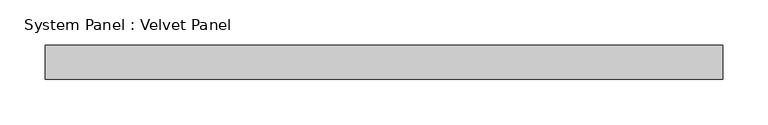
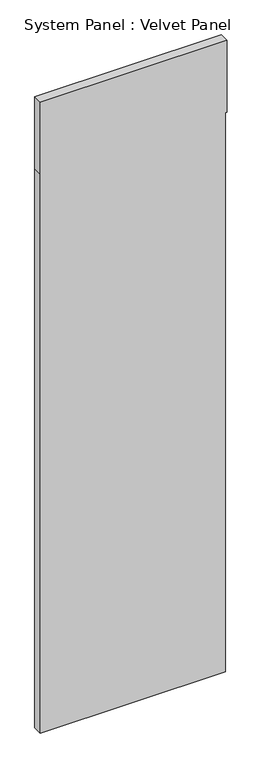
"""IFC4 building model written with IfcOpenShell, lengths in millimetres: plate geometry, System Panel : Velvet Panel."""

from ifc_helpers import new_model, si_unit, frame, origin, place, context, project, spatial, polyline, outline, extrude, source, transform, mapped, element, save


def system_panel_velvet_panel_729e8263(model_context):
    return source(origin(), model_context, "Body", "SweptSolid", [
        extrude(outline(polyline([(0.0, -375.8015547), (0.0, 369.4515547), (2374.9, 369.4515547), (2374.9, 375.8015547), (2679.7, 375.8015547), (2679.7, -375.8015547), (2374.9, -375.8015547), (0.0, -375.8015547)])), frame((0.0, 0.0, 0.0), z_axis=(0.0, 1.0, 0.0), x_axis=(0.0, 0.0, 1.0)), (0.0, 0.0, 1.0), 38.1),
    ])


if __name__ == "__main__":
    model = new_model("IFC4")
    model_context = context("Model", 3, world=origin())
    ifc_project = project(units=[si_unit("LENGTHUNIT", "METRE", prefix="MILLI")], contexts=[model_context])
    site = spatial("IfcSite", under=ifc_project)
    building = spatial("IfcBuilding", under=site)
    placement = place(None, origin())
    system_panel_velvet_panel_shape = system_panel_velvet_panel_729e8263(model_context)
    element("IfcPlate", 1, ObjectType="System Panel : Velvet Panel", at=placement, inside=building, context=model_context, shape_type="MappedRepresentation", body=[
        mapped(system_panel_velvet_panel_shape, transform((0.0, 0.0, 0.0), x_axis=(1.0, 0.0, 0.0), y_axis=(0.0, 1.0, 0.0), z_axis=(0.0, 0.0, 1.0))),
    ])
    save(model, "model.ifc")
